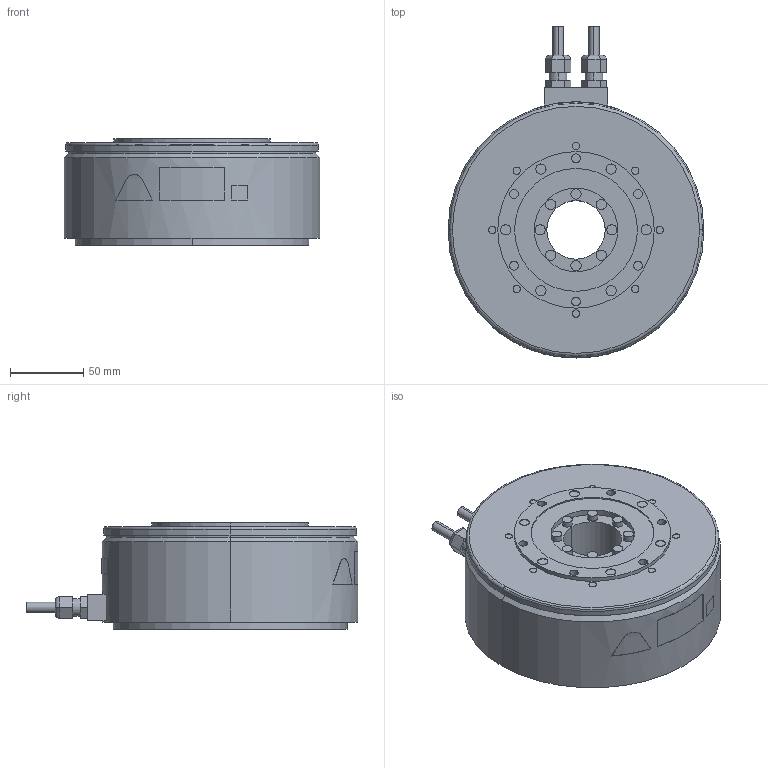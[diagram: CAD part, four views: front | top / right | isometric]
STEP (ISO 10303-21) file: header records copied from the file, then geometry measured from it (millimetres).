
FILE_DESCRIPTION (( 'STEP AP203' ), '1' );
FILE_NAME ('sgm7f_08c_a4_.STEP', '2016-07-24T06:26:52', ( '匠エンジニアリング山之内' ), ( 'TAKUMI-Engniaring' ), 'SwSTEP 2.0', 'SolidWorks 2006303', '' );
FILE_SCHEMA (( 'CONFIG_CONTROL_DESIGN' ));
Length unit declared in the file: millimetre
Products named in the file (1): sgm7f_08c_a4_
Bounding box: 175 x 227 x 73 mm (x, y, z)
Volume: 1587650.1 mm3; surface area: 129001.3 mm2
Topology: 1 solids, 1 shells, 247 faces, 520 edges, 340 vertices
Faces by surface type: cylinder 135, plane 106, cone 4, torus 2
Entity records: 6825 total; most frequent: DIRECTION 1256, CARTESIAN_POINT 1212, ORIENTED_EDGE 1040, EDGE_CURVE 520, AXIS2_PLACEMENT_3D 506, VERTEX_POINT 340, EDGE_LOOP 314, CIRCLE 258
